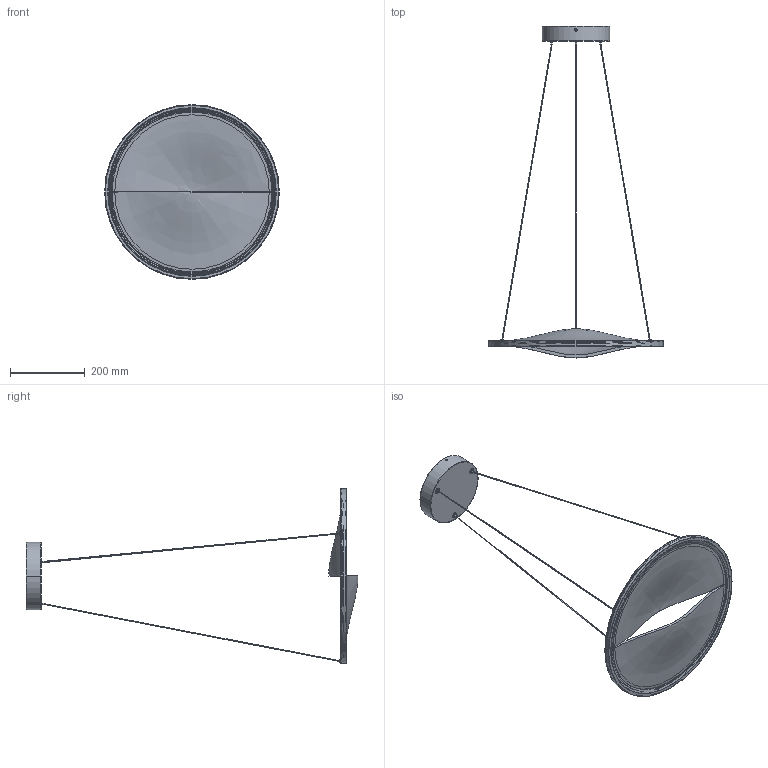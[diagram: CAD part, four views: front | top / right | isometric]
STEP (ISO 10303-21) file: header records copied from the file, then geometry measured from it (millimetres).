
FILE_DESCRIPTION (( 'STEP AP214' ), '1' );
FILE_NAME ('FS-340-466D.STEP', '2024-08-27T13:04:55', ( 'Microsoft' ), ( 'Microsoft' ), 'SwSTEP 2.0', 'SolidWorks 2020', '' );
FILE_SCHEMA (( 'AUTOMOTIVE_DESIGN' ));
Length unit declared in the file: millimetre
Products named in the file (9): 萇盄; M6坶盄諉芛; 322-510裂唅揤攫; FS-340-466絳嫖啣-A; FS-340-466型材圈; FS-340-466D; FS-340-466遠倛沺え; FS-340-466絳嫖啣; M10扥坫肣璃
Assembly tree (14 placements, depth 2):
  FS-340-466D
    FS-340-466型材圈
    FS-340-466絳嫖啣
    FS-340-466遠倛沺え
    M6坶盄諉芛  x3
    322-510裂唅揤攫
    M10扥坫肣璃  x3
    萇盄  x3
    FS-340-466絳嫖啣-A
Bounding box: 466 x 885.4 x 466 mm (x, y, z)
Volume: 198013.6 mm3; surface area: 823956 mm2
Topology: 12 solids, 22 shells, 421 faces, 1079 edges, 699 vertices
Faces by surface type: cylinder 214, plane 66, torus 64, cone 56, bspline 21
Entity records: 12284 total; most frequent: CARTESIAN_POINT 5380, DIRECTION 1327, ORIENTED_EDGE 1308, EDGE_CURVE 671, AXIS2_PLACEMENT_3D 573, VERTEX_POINT 441, CIRCLE 311, EDGE_LOOP 308
